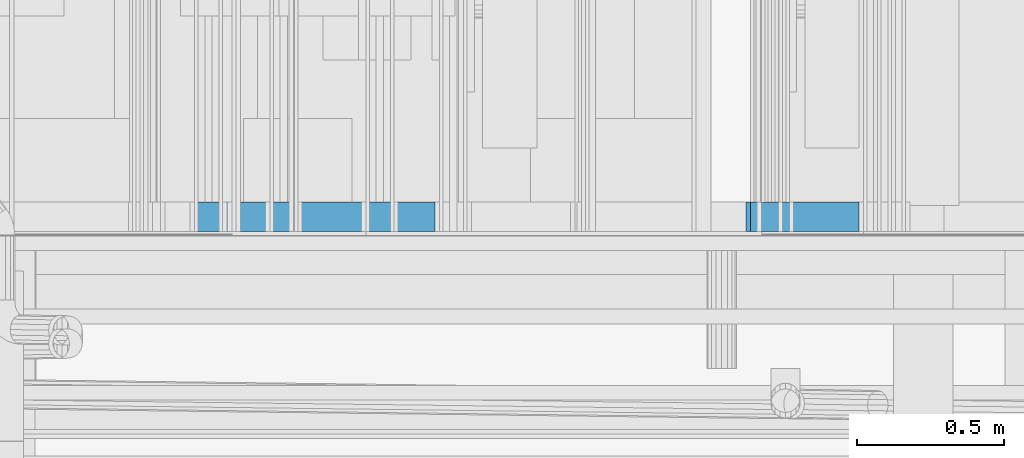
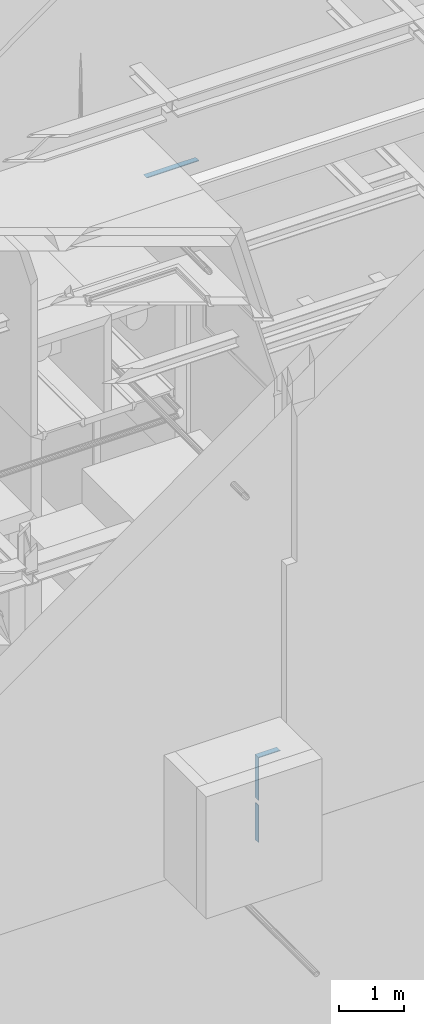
# One storey, part 188 of 583: 4 building element parts, 3 elements without a shape of their own.
"""IFC2X3 building model written with IfcOpenShell, lengths in metres."""

from ifc_helpers import new_model, entity, si_unit, converted_unit, derived_unit, money_unit, direction, frame, frame_2d, origin_with_axes, place, context, subcontext, project, spatial, polyline, rectangle, outline, extrude, material, type_object, element, aggregate, save


model = new_model("IFC2X3")

# Units and contexts
model_context = context("Model", 3, precision=1e-05, world=origin_with_axes(), true_north=direction((0.0, 1.0)))
body_context = subcontext(model_context, "Body", "Model", "MODEL_VIEW", scale=1.0)
ifc_project = project(units=[si_unit("LENGTHUNIT", "METRE"), si_unit("AREAUNIT", "SQUARE_METRE"), si_unit("VOLUMEUNIT", "CUBIC_METRE"), si_unit("ABSORBEDDOSEUNIT", "GRAY"), si_unit("AMOUNTOFSUBSTANCEUNIT", "MOLE"), si_unit("DOSEEQUIVALENTUNIT", "SIEVERT"), si_unit("ELECTRICCAPACITANCEUNIT", "FARAD"), si_unit("ELECTRICCHARGEUNIT", "COULOMB"), si_unit("ELECTRICCONDUCTANCEUNIT", "SIEMENS"), si_unit("ELECTRICCURRENTUNIT", "AMPERE"), si_unit("ELECTRICRESISTANCEUNIT", "OHM"), si_unit("ELECTRICVOLTAGEUNIT", "VOLT"), si_unit("ENERGYUNIT", "JOULE"), si_unit("FORCEUNIT", "NEWTON"), si_unit("FREQUENCYUNIT", "HERTZ"), si_unit("ILLUMINANCEUNIT", "LUX"), si_unit("INDUCTANCEUNIT", "HENRY"), si_unit("LUMINOUSFLUXUNIT", "LUMEN"), si_unit("LUMINOUSINTENSITYUNIT", "CANDELA"), si_unit("MAGNETICFLUXDENSITYUNIT", "TESLA"), si_unit("MAGNETICFLUXUNIT", "WEBER"), si_unit("MASSUNIT", "GRAM"), converted_unit("PLANEANGLEUNIT", "degree", entity("IfcReal", 0.0174532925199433), si_unit("PLANEANGLEUNIT", "RADIAN"), dimensions=[0, 0, 0, 0, 0, 0, 0]), si_unit("POWERUNIT", "WATT"), si_unit("PRESSUREUNIT", "PASCAL"), si_unit("RADIOACTIVITYUNIT", "BECQUEREL"), si_unit("SOLIDANGLEUNIT", "STERADIAN"), si_unit("THERMODYNAMICTEMPERATUREUNIT", "KELVIN"), si_unit("TIMEUNIT", "SECOND"), derived_unit("ACCELERATIONUNIT", [(si_unit("LENGTHUNIT", "METRE"), 1), (si_unit("TIMEUNIT", "SECOND"), -2)]), derived_unit("ANGULARVELOCITYUNIT", [(converted_unit("PLANEANGLEUNIT", "degree", entity("IfcReal", 0.0174532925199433), si_unit("PLANEANGLEUNIT", "RADIAN"), dimensions=[0, 0, 0, 0, 0, 0, 0]), 1), (si_unit("TIMEUNIT", "SECOND"), -1)]), derived_unit("CURVATUREUNIT", [(converted_unit("PLANEANGLEUNIT", "degree", entity("IfcReal", 0.0174532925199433), si_unit("PLANEANGLEUNIT", "RADIAN"), dimensions=[0, 0, 0, 0, 0, 0, 0]), 1), (si_unit("LENGTHUNIT", "METRE"), -1)]), derived_unit("DYNAMICVISCOSITYUNIT", [(si_unit("PRESSUREUNIT", "PASCAL"), 1), (si_unit("TIMEUNIT", "SECOND"), 1)]), derived_unit("HEATFLUXDENSITYUNIT", [(si_unit("POWERUNIT", "WATT"), 1), (si_unit("LENGTHUNIT", "METRE"), -2)]), derived_unit("HEATINGVALUEUNIT", [(si_unit("ENERGYUNIT", "JOULE"), 1), (si_unit("MASSUNIT", "GRAM"), -1)]), derived_unit("INTEGERCOUNTRATEUNIT", [(si_unit("TIMEUNIT", "SECOND"), -1)]), derived_unit("IONCONCENTRATIONUNIT", [(si_unit("MASSUNIT", "GRAM"), 1), (si_unit("VOLUMEUNIT", "CUBIC_METRE"), -1)]), derived_unit("ISOTHERMALMOISTURECAPACITYUNIT", [(si_unit("VOLUMEUNIT", "CUBIC_METRE"), 1), (si_unit("MASSUNIT", "GRAM"), -1)]), derived_unit("KINEMATICVISCOSITYUNIT", [(si_unit("AREAUNIT", "SQUARE_METRE"), 1), (si_unit("TIMEUNIT", "SECOND"), -1)]), derived_unit("LINEARFORCEUNIT", [(si_unit("FORCEUNIT", "NEWTON"), 1), (si_unit("LENGTHUNIT", "METRE"), -1)]), derived_unit("LINEARMOMENTUNIT", [(si_unit("FORCEUNIT", "NEWTON"), 1), (si_unit("LENGTHUNIT", "METRE"), -1)]), derived_unit("LINEARSTIFFNESSUNIT", [(si_unit("FORCEUNIT", "NEWTON"), 1), (si_unit("LENGTHUNIT", "METRE"), -1)]), derived_unit("LINEARVELOCITYUNIT", [(si_unit("LENGTHUNIT", "METRE"), 1), (si_unit("TIMEUNIT", "SECOND"), -1)]), derived_unit("LUMINOUSINTENSITYDISTRIBUTIONUNIT", [(si_unit("LUMINOUSINTENSITYUNIT", "CANDELA"), 1), (si_unit("LUMINOUSFLUXUNIT", "LUMEN"), -1)]), derived_unit("MASSDENSITYUNIT", [(si_unit("MASSUNIT", "GRAM"), 1), (si_unit("VOLUMEUNIT", "CUBIC_METRE"), -1)]), derived_unit("MASSFLOWRATEUNIT", [(si_unit("MASSUNIT", "GRAM"), 1), (si_unit("TIMEUNIT", "SECOND"), -1)]), derived_unit("MASSPERLENGTHUNIT", [(si_unit("MASSUNIT", "GRAM"), 1), (si_unit("LENGTHUNIT", "METRE"), -1)]), derived_unit("MODULUSOFELASTICITYUNIT", [(si_unit("FORCEUNIT", "NEWTON"), 1), (si_unit("AREAUNIT", "SQUARE_METRE"), -1)]), derived_unit("MODULUSOFLINEARSUBGRADEREACTIONUNIT", [(si_unit("FORCEUNIT", "NEWTON"), 1), (si_unit("LENGTHUNIT", "METRE"), -2)]), derived_unit("MODULUSOFROTATIONALSUBGRADEREACTIONUNIT", [(si_unit("FORCEUNIT", "NEWTON"), 1), (si_unit("LENGTHUNIT", "METRE"), 1)]), derived_unit("MODULUSOFSUBGRADEREACTIONUNIT", [(si_unit("FORCEUNIT", "NEWTON"), 1), (si_unit("VOLUMEUNIT", "CUBIC_METRE"), -1)]), derived_unit("MOISTUREDIFFUSIVITYUNIT", [(si_unit("VOLUMEUNIT", "CUBIC_METRE"), 1), (si_unit("TIMEUNIT", "SECOND"), -1)]), derived_unit("MOLECULARWEIGHTUNIT", [(si_unit("MASSUNIT", "GRAM"), 1), (si_unit("AMOUNTOFSUBSTANCEUNIT", "MOLE"), -1)]), derived_unit("PLANARFORCEUNIT", [(si_unit("FORCEUNIT", "NEWTON"), 1), (si_unit("LENGTHUNIT", "METRE"), -2)]), derived_unit("ROTATIONALFREQUENCYUNIT", [(si_unit("TIMEUNIT", "SECOND"), -1)]), derived_unit("ROTATIONALMASSUNIT", [(si_unit("MASSUNIT", "GRAM"), 1), (si_unit("LENGTHUNIT", "METRE"), 2)]), derived_unit("ROTATIONALSTIFFNESSUNIT", [(si_unit("FORCEUNIT", "NEWTON"), 1), (si_unit("LENGTHUNIT", "METRE"), 1), (converted_unit("PLANEANGLEUNIT", "degree", entity("IfcReal", 0.0174532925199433), si_unit("PLANEANGLEUNIT", "RADIAN"), dimensions=[0, 0, 0, 0, 0, 0, 0]), -1)]), derived_unit("SECTIONAREAINTEGRALUNIT", [(si_unit("LENGTHUNIT", "METRE"), 5)]), derived_unit("SECTIONMODULUSUNIT", [(si_unit("LENGTHUNIT", "METRE"), 3)]), derived_unit("SHEARMODULUSUNIT", [(si_unit("FORCEUNIT", "NEWTON"), 1), (si_unit("AREAUNIT", "SQUARE_METRE"), -1)]), derived_unit("SOUNDPOWERUNIT", [(si_unit("ENERGYUNIT", "JOULE"), 1), (si_unit("TIMEUNIT", "SECOND"), -1)]), derived_unit("SPECIFICHEATCAPACITYUNIT", [(si_unit("FORCEUNIT", "NEWTON"), 1), (si_unit("MASSUNIT", "GRAM"), -1), (si_unit("THERMODYNAMICTEMPERATUREUNIT", "KELVIN"), -1)]), derived_unit("TEMPERATUREGRADIENTUNIT", [(si_unit("THERMODYNAMICTEMPERATUREUNIT", "KELVIN"), 1), (si_unit("LENGTHUNIT", "METRE"), -1)]), derived_unit("THERMALADMITTANCEUNIT", [(si_unit("POWERUNIT", "WATT"), 1), (si_unit("AREAUNIT", "SQUARE_METRE"), -1), (si_unit("THERMODYNAMICTEMPERATUREUNIT", "KELVIN"), -1)]), derived_unit("THERMALCONDUCTANCEUNIT", [(si_unit("POWERUNIT", "WATT"), 1), (si_unit("LENGTHUNIT", "METRE"), -1), (si_unit("THERMODYNAMICTEMPERATUREUNIT", "KELVIN"), -1)]), derived_unit("THERMALEXPANSIONCOEFFICIENTUNIT", [(si_unit("THERMODYNAMICTEMPERATUREUNIT", "KELVIN"), -1)]), derived_unit("THERMALRESISTANCEUNIT", [(si_unit("AREAUNIT", "SQUARE_METRE"), 1), (si_unit("POWERUNIT", "WATT"), -1)]), derived_unit("THERMALTRANSMITTANCEUNIT", [(si_unit("POWERUNIT", "WATT"), 1), (si_unit("AREAUNIT", "SQUARE_METRE"), -1), (si_unit("THERMODYNAMICTEMPERATUREUNIT", "KELVIN"), -1)]), derived_unit("TORQUEUNIT", [(si_unit("FORCEUNIT", "NEWTON"), 1), (si_unit("LENGTHUNIT", "METRE"), 1)]), derived_unit("VAPORPERMEABILITYUNIT", [(si_unit("MASSUNIT", "GRAM"), 1), (si_unit("TIMEUNIT", "SECOND"), -1)]), derived_unit("VOLUMETRICFLOWRATEUNIT", [(si_unit("VOLUMEUNIT", "CUBIC_METRE"), 1), (si_unit("TIMEUNIT", "SECOND"), -1)]), derived_unit("WARPINGCONSTANTUNIT", [(si_unit("LENGTHUNIT", "METRE"), 6)]), derived_unit("WARPINGMOMENTUNIT", [(si_unit("FORCEUNIT", "NEWTON"), 1), (si_unit("LENGTHUNIT", "METRE"), 2)]), money_unit("GBP")], contexts=[model_context])

# Site, building, storey
site_placement = place(None, origin_with_axes())
site = spatial("IfcSite", under=ifc_project, at=site_placement, Name="Site", CompositionType="ELEMENT")
building_placement = place(site_placement, origin_with_axes())
building = spatial("IfcBuilding", under=site, at=building_placement, Name="Building01", CompositionType="ELEMENT")
storey_placement = place(building_placement, frame((0.0, 0.0, 20.78), z_axis=(0.0, 0.0, 1.0), x_axis=(1.0, 0.0, 0.0)))
storey = spatial("IfcBuildingStorey", under=building, at=storey_placement, Name="RL", CompositionType="ELEMENT", Elevation=20.78)

# Wall, building element part
wall_type = type_object("IfcWallType", Name="SHE_A-Walls_Type05a_Partition_95mm_tall", PredefinedType="NOTDEFINED")
wall_1_placement = place(storey_placement, frame((9.585, 5.15, -2.84), z_axis=(0.0, 1.0, 0.0), x_axis=(1.0, 0.0, 0.0)))
wall_1 = element("IfcWall", 1, at=wall_1_placement, inside=storey, type_object=wall_type, Name="5A", ObjectType="SHE_A-Walls_Type05a_Partition_95mm_tall")
ifc_material = material(Name="A_BSUK_Walls_Timber")
building_element_part_1_placement = place(wall_1_placement, origin_with_axes())
building_element_part_1 = element("IfcBuildingElementPart", 2, at=building_element_part_1_placement, material=ifc_material, Name="2", context=body_context, shape_type="SweptSolid", body=[
    extrude(outline(polyline([(0.97, 0.05), (0.05, 0.05), (0.035, 0.035), (0.97, 0.035), (0.97, 0.05)])), frame((0.0, 0.0, 0.015), z_axis=(0.0, 0.0, 1.0), x_axis=(1.0, 0.0, 0.0)), (0.0, 0.0, 1.0), 0.1),
])
aggregate(wall_1, [building_element_part_1])

wall_2_placement = place(storey_placement, frame((11.66567, 5.15, -14.550331), z_axis=(0.0, 1.0, 0.0), x_axis=(1.0, 0.0, 0.0)))
wall_2 = element("IfcWall", 3, at=wall_2_placement, inside=storey, type_object=wall_type, Name="5A", ObjectType="SHE_A-Walls_Type05a_Partition_95mm_tall")
building_element_part_2_placement = place(wall_2_placement, origin_with_axes())
building_element_part_2 = element("IfcBuildingElementPart", 4, at=building_element_part_2_placement, material=ifc_material, Name="3", context=body_context, shape_type="SweptSolid", body=[
    extrude(outline(polyline([(0.35, -0.035), (-0.035, -0.035), (-0.05, -0.05), (0.335, -0.05), (0.35, -0.035)])), frame((0.0, 0.0, 0.015), z_axis=(0.0, 0.0, 1.0), x_axis=(1.0, 0.0, 0.0)), (0.0, 0.0, 1.0), 0.1),
])
aggregate(wall_2, [building_element_part_2])

# Wall, building element parts
wall_3_placement = place(storey_placement, frame((11.66567, 5.15, -16.110331), z_axis=(0.0, 1.0, 0.0), x_axis=(0.0, 0.0, 1.0)))
wall_3 = element("IfcWall", 5, at=wall_3_placement, inside=storey, type_object=wall_type, Name="5A", ObjectType="SHE_A-Walls_Type05a_Partition_95mm_tall")
placement = place(wall_3_placement, origin_with_axes())
building_element_part_3 = element("IfcBuildingElementPart", 6, at=placement, material=ifc_material, Name="3", context=body_context, shape_type="SweptSolid", body=[
    extrude(rectangle(XDim=0.7, YDim=0.015, at=frame_2d((0.35, -0.0425), x_axis=(-1.0, 0.0))), frame((0.0, 0.0, 0.015), z_axis=(0.0, 0.0, 1.0), x_axis=(1.0, 0.0, 0.0)), (0.0, 0.0, 1.0), 0.1),
])
building_element_part_4 = element("IfcBuildingElementPart", 7, at=placement, material=ifc_material, Name="4", context=body_context, shape_type="SweptSolid", body=[
    extrude(outline(polyline([(1.595, -0.035), (0.795, -0.035), (0.795, -0.05), (1.61, -0.05), (1.595, -0.035)])), frame((0.0, 0.0, 0.015), z_axis=(0.0, 0.0, 1.0), x_axis=(1.0, 0.0, 0.0)), (0.0, 0.0, 1.0), 0.1),
])
aggregate(wall_3, [building_element_part_3, building_element_part_4])

save(model, "model.ifc")
